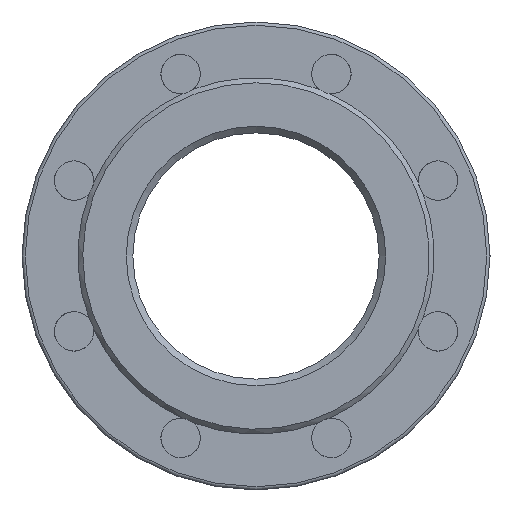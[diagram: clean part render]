
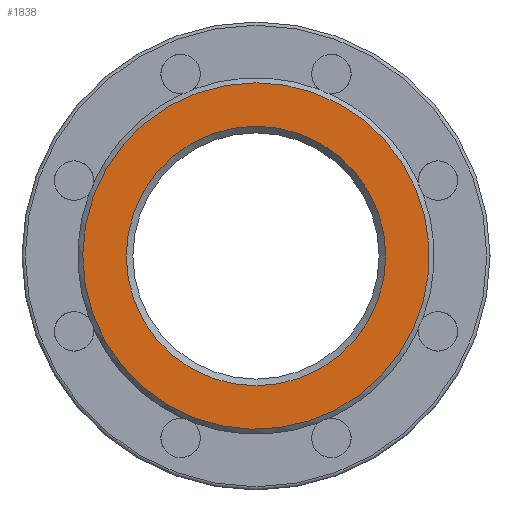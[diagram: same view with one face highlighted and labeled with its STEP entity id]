
A CAD part, left-side view. The second image highlights one B-rep face of the part: STEP entity #1838.
In plain terms, the highlighted planar face has unit normal (-1, 0, 0).
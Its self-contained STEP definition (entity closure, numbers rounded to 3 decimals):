
#11 = EDGE_CURVE ( 'NONE', #3314, #3314, #2973, .T. ) ;
#71 = CARTESIAN_POINT ( 'NONE',  ( -250., 0., 0. ) ) ;
#76 = DIRECTION ( 'NONE',  ( 0., 0., 1. ) ) ;
#83 = DIRECTION ( 'NONE',  ( -1., 0., 0. ) ) ;
#1297 = CARTESIAN_POINT ( 'NONE',  ( -250., 0., 0. ) ) ;
#1298 = DIRECTION ( 'NONE',  ( 1., 0., 0. ) ) ;
#1299 = DIRECTION ( 'NONE',  ( 0., 0., -1. ) ) ;
#1536 = CARTESIAN_POINT ( 'NONE',  ( -250., 0., 105.5 ) ) ;
#1575 = CARTESIAN_POINT ( 'NONE',  ( -250., 0., -79. ) ) ;
#1634 = ORIENTED_EDGE ( 'NONE', *, *, #2700, .T. ) ;
#1657 = ORIENTED_EDGE ( 'NONE', *, *, #11, .T. ) ;
#1760 = DIRECTION ( 'NONE',  ( 0., 0., -1. ) ) ;
#1761 = DIRECTION ( 'NONE',  ( 1., 0., 0. ) ) ;
#1762 = CARTESIAN_POINT ( 'NONE',  ( -250., 75., 0. ) ) ;
#1769 = PLANE ( 'NONE',  #2610 ) ;
#1838 = ADVANCED_FACE ( 'NONE', ( #3002, #2981 ), #1769, .F. ) ;
#2397 = AXIS2_PLACEMENT_3D ( 'NONE', #1297, #1298, #1299 ) ;
#2555 = AXIS2_PLACEMENT_3D ( 'NONE', #71, #83, #76 ) ;
#2610 = AXIS2_PLACEMENT_3D ( 'NONE', #1762, #1761, #1760 ) ;
#2700 = EDGE_CURVE ( 'NONE', #3379, #3379, #3283, .T. ) ;
#2904 = EDGE_LOOP ( 'NONE', ( #1657 ) ) ;
#2922 = EDGE_LOOP ( 'NONE', ( #1634 ) ) ;
#2973 = CIRCLE ( 'NONE', #2555, 105.5 ) ;
#2981 = FACE_BOUND ( 'NONE', #2922, .T. ) ;
#3002 = FACE_OUTER_BOUND ( 'NONE', #2904, .T. ) ;
#3283 = CIRCLE ( 'NONE', #2397, 79. ) ;
#3314 = VERTEX_POINT ( 'NONE', #1536 ) ;
#3379 = VERTEX_POINT ( 'NONE', #1575 ) ;
